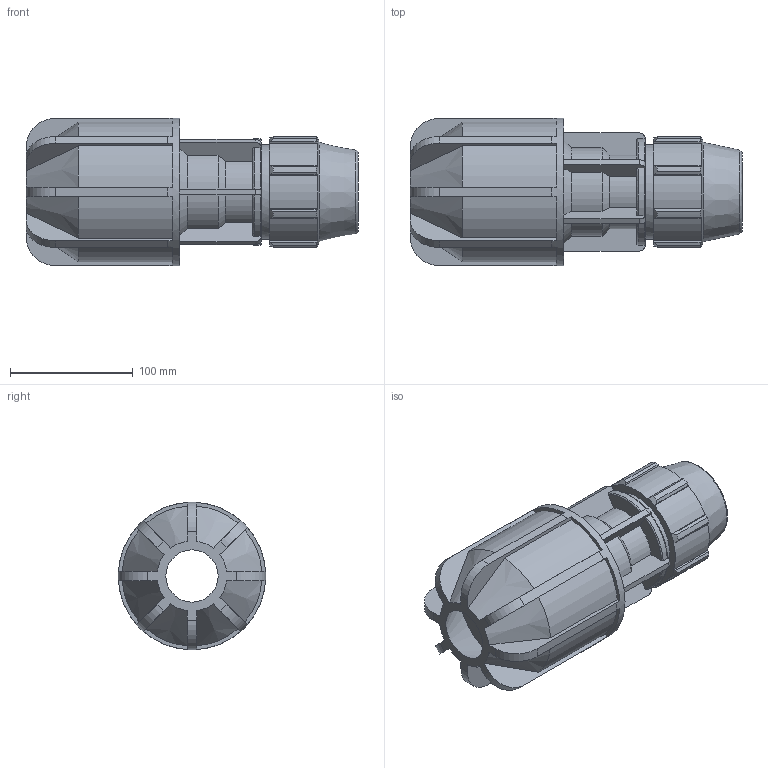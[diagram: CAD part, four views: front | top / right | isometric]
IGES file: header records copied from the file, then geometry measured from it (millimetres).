
Global section: file name: 070170M15050.ipt; native system: Autodesk Inventor 2019; preprocessor: unknown; author: KIM; date: 20210826.124339; units: inch
Bounding box: 270 x 119.89 x 119.89 mm (x, y, z)
Volume: 1204146.8 mm3; surface area: 176142.3 mm2
Topology: 1 solids, 1 shells, 220 faces, 635 edges, 422 vertices
Faces by surface type: plane 111, cylinder 58, cone 30, revolution 21
Full cylindrical faces by diameter (mm): 76.81 x1, 119.888 x1
